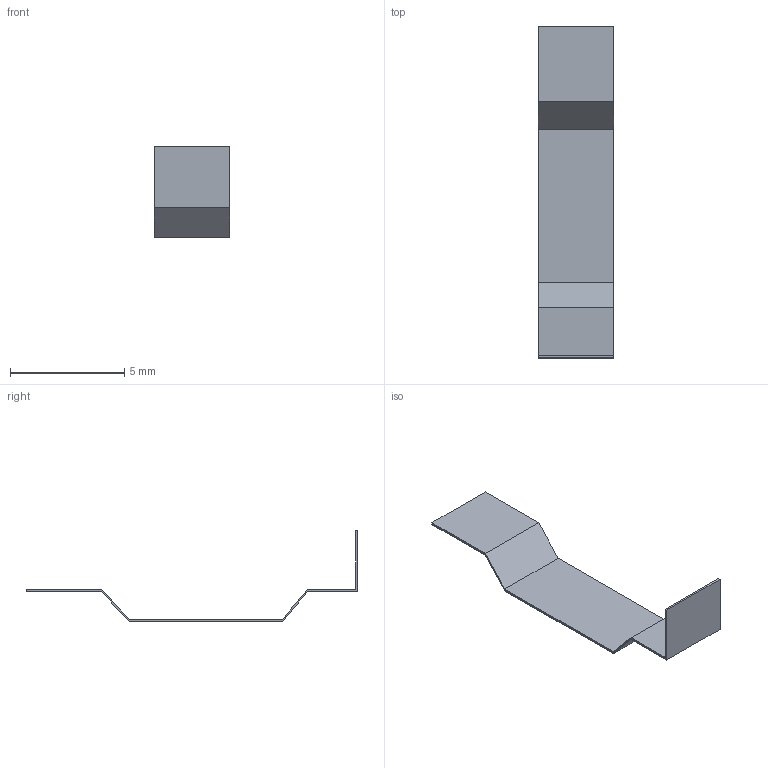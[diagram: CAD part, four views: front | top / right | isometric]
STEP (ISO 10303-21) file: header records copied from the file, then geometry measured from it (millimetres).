
FILE_DESCRIPTION(('Open CASCADE Model'),'2;1');
FILE_NAME('R36_STOCK_J8_FORMED_END_WRAP_STRAP_0p10_FINAL', '2026-09-15T14:35:27',('Author'),('Open CASCADE'), 'Open CASCADE STEP processor 7.9','build123d','Unknown');
FILE_SCHEMA(('AUTOMOTIVE_DESIGN { 1 0 10303 214 1 1 1 1 }'));
Length unit declared in the file: millimetre
Products named in the file (1): R36_STOCK_J8_FORMED_END_WRAP_STRAP_0p10_FINAL
Bounding box: 3.3 x 14.5 x 3.98 mm (x, y, z)
Volume: 5.6 mm3; surface area: 124.5 mm2
Topology: 1 solids, 1 shells, 16 faces, 42 edges, 28 vertices
Faces by surface type: plane 16
Entity records: 1042 total; most frequent: CARTESIAN_POINT 171, DIRECTION 160, LINE 126, VECTOR 126, ORIENTED_EDGE 84, PCURVE 84, DEFINITIONAL_REPRESENTATION 84, EDGE_CURVE 42
